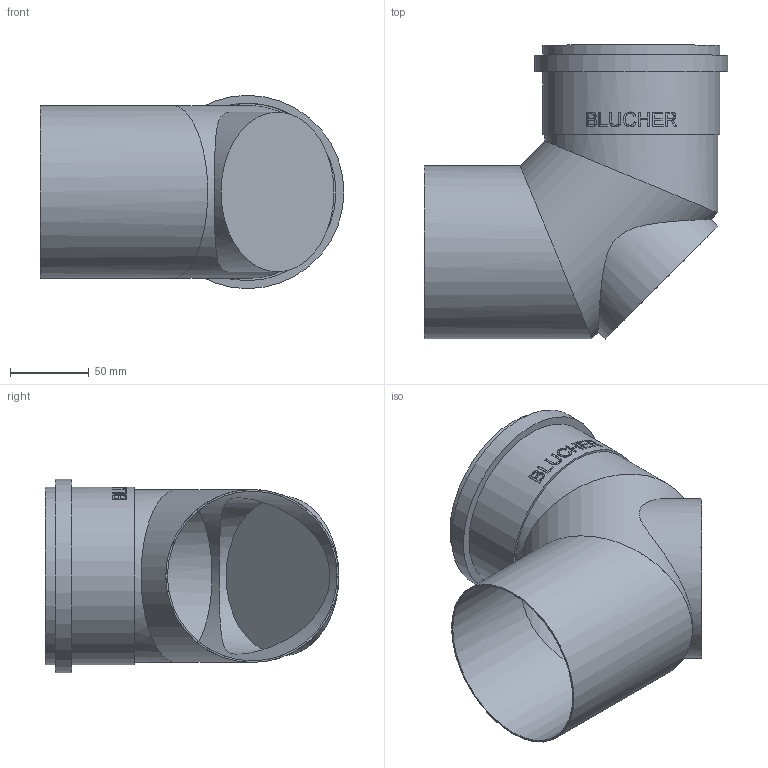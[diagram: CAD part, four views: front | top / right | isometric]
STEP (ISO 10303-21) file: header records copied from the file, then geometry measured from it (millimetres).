
FILE_DESCRIPTION((''),'2;1');
FILE_NAME('I:\WATTS\3D_CAD\3D_CAD_Models\Blucher_Drains\Fittings\Access Fittings\WebsiteFiles\3D\STEP\AB-4-316.stp','2009-12-18T15:24:47',('menesek'),(''),'Autodesk Inventor 2010','Autodesk Inventor 2010','');
FILE_SCHEMA(('AUTOMOTIVE_DESIGN { 1 0 10303 214 1 1 1 1 }'));
Length unit declared in the file: inch
Products named in the file (1): AB-4-316
Bounding box: 193.29 x 186.96 x 122.94 mm (x, y, z)
Volume: 92012.9 mm3; surface area: 182491.1 mm2
Topology: 1 solids, 1 shells, 122 faces, 312 edges, 210 vertices
Faces by surface type: plane 64, bspline 34, cylinder 24
Full cylindrical faces by diameter (mm): 99.568 x1, 101.6 x1, 107.95 x3, 109.982 x3, 110.744 x2, 112.776 x2, 120.904 x1, 122.936 x1
Entity records: 14549 total; most frequent: CARTESIAN_POINT 11907, ORIENTED_EDGE 584, DIRECTION 416, EDGE_CURVE 292, VERTEX_POINT 204, EDGE_LOOP 156, AXIS2_PLACEMENT_3D 150, FACE_OUTER_BOUND 122
